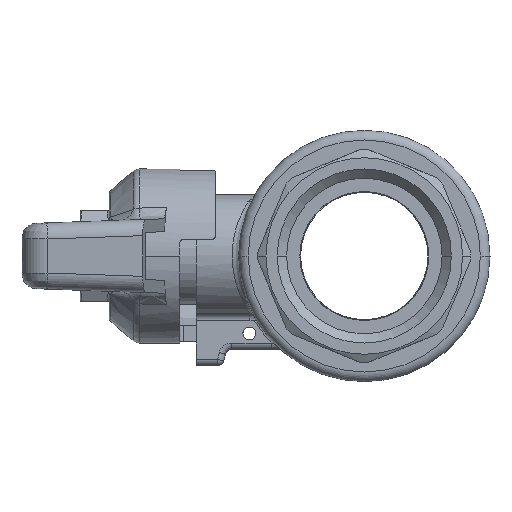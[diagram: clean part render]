
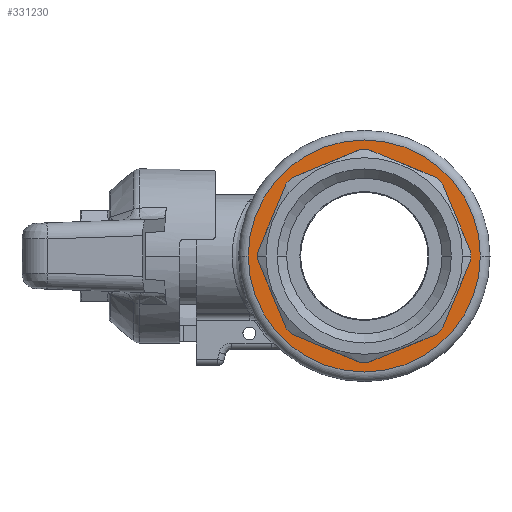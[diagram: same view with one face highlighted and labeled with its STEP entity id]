
A CAD part, left-side view. The second image highlights one B-rep face of the part: STEP entity #331230.
In plain terms, the highlighted planar face has unit normal (-1, 0, 0) as drawn and (1, 0, 0) by its records, which use the part's own axes.
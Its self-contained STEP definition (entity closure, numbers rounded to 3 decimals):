
#326700=CARTESIAN_POINT('',(19.5,-0.705,16.485));
#326710=VERTEX_POINT('',#326700);
#326740=CARTESIAN_POINT('',(19.5,0.,0.));
#326750=DIRECTION('',(-1.,-0.,0.));
#326760=DIRECTION('',(0.,-0.043,0.999));
#326770=AXIS2_PLACEMENT_3D('',#326740,#326750,#326760);
#326780=CIRCLE('',#326770,16.5);
#326790=CARTESIAN_POINT('',(19.5,0.705,16.485));
#326800=VERTEX_POINT('',#326790);
#326810=EDGE_CURVE('',#326710,#326800,#326780,.T.);
#327020=CARTESIAN_POINT('',(19.5,-11.158,12.155));
#327030=VERTEX_POINT('',#327020);
#327060=CARTESIAN_POINT('',(19.5,-11.158,12.155));
#327070=DIRECTION('',(0.,0.924,0.383));
#327080=VECTOR('',#327070,1.);
#327090=LINE('',#327060,#327080);
#327100=EDGE_CURVE('',#327030,#326710,#327090,.T.);
#327260=CARTESIAN_POINT('',(19.5,-12.155,11.158));
#327270=VERTEX_POINT('',#327260);
#327300=CARTESIAN_POINT('',(19.5,0.,0.));
#327310=DIRECTION('',(-1.,-0.,0.));
#327320=DIRECTION('',(0.,-0.737,0.676));
#327330=AXIS2_PLACEMENT_3D('',#327300,#327310,#327320);
#327340=CIRCLE('',#327330,16.5);
#327350=EDGE_CURVE('',#327270,#327030,#327340,.T.);
#327510=CARTESIAN_POINT('',(19.5,-16.485,0.705));
#327520=VERTEX_POINT('',#327510);
#327550=CARTESIAN_POINT('',(19.5,-16.485,0.705));
#327560=DIRECTION('',(0.,0.383,0.924));
#327570=VECTOR('',#327560,1.);
#327580=LINE('',#327550,#327570);
#327590=EDGE_CURVE('',#327520,#327270,#327580,.T.);
#327750=CARTESIAN_POINT('',(19.5,-16.485,-0.705));
#327760=VERTEX_POINT('',#327750);
#327810=CARTESIAN_POINT('',(19.5,0.,0.));
#327820=DIRECTION('',(-1.,-0.,0.));
#327830=DIRECTION('',(0.,-1.,0.));
#327840=AXIS2_PLACEMENT_3D('',#327810,#327820,#327830);
#327850=CIRCLE('',#327840,16.5);
#327860=EDGE_CURVE('',#327760,#327520,#327850,.T.);
#328060=CARTESIAN_POINT('',(19.5,-12.155,-11.158));
#328070=VERTEX_POINT('',#328060);
#328100=CARTESIAN_POINT('',(19.5,-12.155,-11.158));
#328110=DIRECTION('',(0.,-0.383,0.924));
#328120=VECTOR('',#328110,1.);
#328130=LINE('',#328100,#328120);
#328140=EDGE_CURVE('',#328070,#327760,#328130,.T.);
#328400=CARTESIAN_POINT('',(19.5,-11.158,-12.155));
#328410=VERTEX_POINT('',#328400);
#328460=CARTESIAN_POINT('',(19.5,0.,0.));
#328470=DIRECTION('',(-1.,-0.,0.));
#328480=DIRECTION('',(0.,-0.676,-0.737));
#328490=AXIS2_PLACEMENT_3D('',#328460,#328470,#328480);
#328500=CIRCLE('',#328490,16.5);
#328510=EDGE_CURVE('',#328410,#328070,#328500,.T.);
#328750=CARTESIAN_POINT('',(19.5,-0.705,-16.485));
#328760=VERTEX_POINT('',#328750);
#328790=CARTESIAN_POINT('',(19.5,-0.705,-16.485));
#328800=DIRECTION('',(0.,-0.924,0.383));
#328810=VECTOR('',#328800,1.);
#328820=LINE('',#328790,#328810);
#328830=EDGE_CURVE('',#328760,#328410,#328820,.T.);
#329090=CARTESIAN_POINT('',(19.5,0.705,-16.485));
#329100=VERTEX_POINT('',#329090);
#329150=CARTESIAN_POINT('',(19.5,0.,0.));
#329160=DIRECTION('',(-1.,0.,-0.));
#329170=DIRECTION('',(0.,0.043,-0.999));
#329180=AXIS2_PLACEMENT_3D('',#329150,#329160,#329170);
#329190=CIRCLE('',#329180,16.5);
#329200=EDGE_CURVE('',#329100,#328760,#329190,.T.);
#329440=CARTESIAN_POINT('',(19.5,11.158,-12.155));
#329450=VERTEX_POINT('',#329440);
#329480=CARTESIAN_POINT('',(19.5,11.158,-12.155));
#329490=DIRECTION('',(0.,-0.924,-0.383));
#329500=VECTOR('',#329490,1.);
#329510=LINE('',#329480,#329500);
#329520=EDGE_CURVE('',#329450,#329100,#329510,.T.);
#329780=CARTESIAN_POINT('',(19.5,12.155,-11.158));
#329790=VERTEX_POINT('',#329780);
#329840=CARTESIAN_POINT('',(19.5,0.,0.));
#329850=DIRECTION('',(-1.,0.,-0.));
#329860=DIRECTION('',(0.,0.737,-0.676));
#329870=AXIS2_PLACEMENT_3D('',#329840,#329850,#329860);
#329880=CIRCLE('',#329870,16.5);
#329890=EDGE_CURVE('',#329790,#329450,#329880,.T.);
#330130=CARTESIAN_POINT('',(19.5,16.485,-0.705));
#330140=VERTEX_POINT('',#330130);
#330170=CARTESIAN_POINT('',(19.5,16.485,-0.705));
#330180=DIRECTION('',(0.,-0.383,-0.924));
#330190=VECTOR('',#330180,1.);
#330200=LINE('',#330170,#330190);
#330210=EDGE_CURVE('',#330140,#329790,#330200,.T.);
#330510=CARTESIAN_POINT('',(19.5,16.485,0.705));
#330520=VERTEX_POINT('',#330510);
#330550=CARTESIAN_POINT('',(19.5,0.,0.));
#330560=DIRECTION('',(-1.,0.,0.));
#330570=DIRECTION('',(0.,0.999,0.043));
#330580=AXIS2_PLACEMENT_3D('',#330550,#330560,#330570);
#330590=CIRCLE('',#330580,16.5);
#330600=EDGE_CURVE('',#330520,#330140,#330590,.T.);
#330650=CARTESIAN_POINT('',(19.5,18.,0.));
#330660=DIRECTION('',(1.,0.,0.));
#330670=DIRECTION('',(0.,-1.,0.));
#330680=AXIS2_PLACEMENT_3D('',#330650,#330660,#330670);
#330690=PLANE('',#330680);
#330700=CARTESIAN_POINT('',(19.5,0.,0.));
#330710=DIRECTION('',(1.,0.,0.));
#330720=DIRECTION('',(0.,-1.,0.));
#330730=AXIS2_PLACEMENT_3D('',#330700,#330710,#330720);
#330740=CIRCLE('',#330730,18.);
#330750=CARTESIAN_POINT('',(19.5,18.,0.));
#330760=VERTEX_POINT('',#330750);
#330770=CARTESIAN_POINT('',(19.5,-18.,0.));
#330780=VERTEX_POINT('',#330770);
#330790=EDGE_CURVE('',#330760,#330780,#330740,.T.);
#330800=ORIENTED_EDGE('',*,*,#330790,.T.);
#330810=EDGE_CURVE('',#330780,#330760,#330740,.T.);
#330820=ORIENTED_EDGE('',*,*,#330810,.T.);
#330830=EDGE_LOOP('',(#330820,#330800));
#330840=FACE_OUTER_BOUND('',#330830,.T.);
#330850=ORIENTED_EDGE('',*,*,#327350,.T.);
#330860=ORIENTED_EDGE('',*,*,#327590,.T.);
#330870=ORIENTED_EDGE('',*,*,#327860,.T.);
#330880=ORIENTED_EDGE('',*,*,#328140,.T.);
#330890=ORIENTED_EDGE('',*,*,#328510,.T.);
#330900=ORIENTED_EDGE('',*,*,#328830,.T.);
#330910=ORIENTED_EDGE('',*,*,#329200,.T.);
#330920=ORIENTED_EDGE('',*,*,#329520,.T.);
#330930=ORIENTED_EDGE('',*,*,#329890,.T.);
#330940=ORIENTED_EDGE('',*,*,#330210,.T.);
#330950=ORIENTED_EDGE('',*,*,#330600,.T.);
#330960=CARTESIAN_POINT('',(19.5,12.155,11.158));
#330970=DIRECTION('',(0.,0.383,-0.924));
#330980=VECTOR('',#330970,1.);
#330990=LINE('',#330960,#330980);
#331000=CARTESIAN_POINT('',(19.5,12.155,11.158));
#331010=VERTEX_POINT('',#331000);
#331020=EDGE_CURVE('',#331010,#330520,#330990,.T.);
#331030=ORIENTED_EDGE('',*,*,#331020,.T.);
#331040=CARTESIAN_POINT('',(19.5,0.,0.));
#331050=DIRECTION('',(-1.,0.,0.));
#331060=DIRECTION('',(0.,0.676,0.737));
#331070=AXIS2_PLACEMENT_3D('',#331040,#331050,#331060);
#331080=CIRCLE('',#331070,16.5);
#331090=CARTESIAN_POINT('',(19.5,11.158,12.155));
#331100=VERTEX_POINT('',#331090);
#331110=EDGE_CURVE('',#331100,#331010,#331080,.T.);
#331120=ORIENTED_EDGE('',*,*,#331110,.T.);
#331130=CARTESIAN_POINT('',(19.5,0.705,16.485));
#331140=DIRECTION('',(0.,0.924,-0.383));
#331150=VECTOR('',#331140,1.);
#331160=LINE('',#331130,#331150);
#331170=EDGE_CURVE('',#326800,#331100,#331160,.T.);
#331180=ORIENTED_EDGE('',*,*,#331170,.T.);
#331190=ORIENTED_EDGE('',*,*,#326810,.T.);
#331200=ORIENTED_EDGE('',*,*,#327100,.T.);
#331210=EDGE_LOOP('',(#331200,#331190,#331180,#331120,#331030,#330950,
#330940,#330930,#330920,#330910,#330900,#330890,#330880,#330870,#330860,
#330850));
#331220=FACE_BOUND('',#331210,.T.);
#331230=ADVANCED_FACE('',(#330840,#331220),#330690,.T.);
